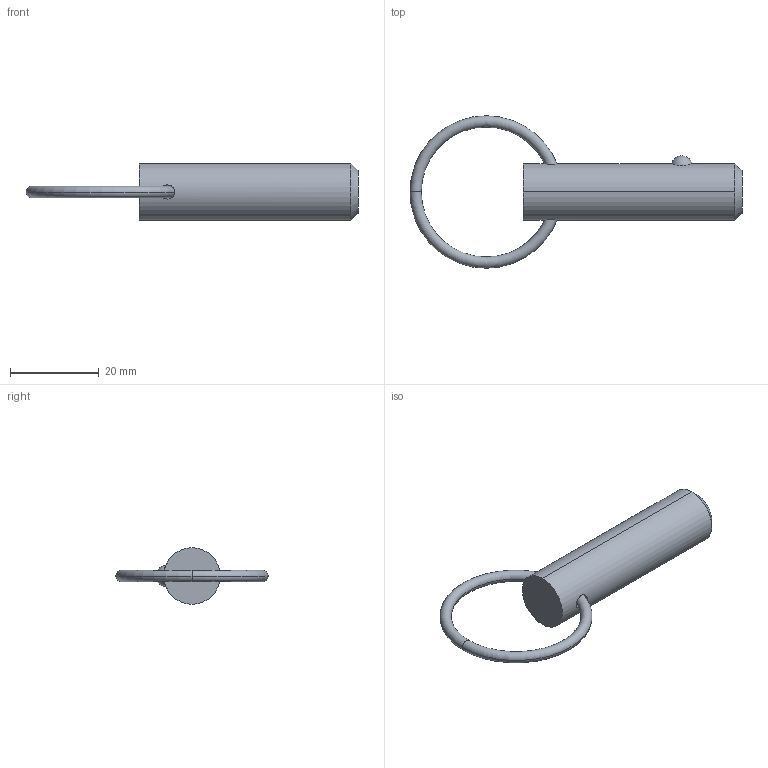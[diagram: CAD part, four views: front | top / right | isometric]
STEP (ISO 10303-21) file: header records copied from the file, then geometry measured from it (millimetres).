
FILE_DESCRIPTION (( 'STEP AP203' ), '1' );
FILE_NAME ('33012.W5010.step', '2024-11-01T14:12:41', ( '' ), ( '' ), 'SwSTEP 2.0', 'SolidWorks 2019', '' );
FILE_SCHEMA (( 'CONFIG_CONTROL_DESIGN' ));
Length unit declared in the file: millimetre
Products named in the file (3): Part1_33012.W5010; Part2_33012.W5010; 33012.W5010
Assembly tree (2 placements, depth 2):
  33012.W5010
    Part1_33012.W5010
    Part2_33012.W5010
Bounding box: 74.69 x 34.29 x 12.7 mm (x, y, z)
Volume: 6609.3 mm3; surface area: 3095.2 mm2
Topology: 2 solids, 2 shells, 16 faces, 31 edges, 18 vertices
Faces by surface type: torus 8, sphere 2, cone 2, cylinder 2, plane 2
Entity records: 885 total; most frequent: CARTESIAN_POINT 242, DIRECTION 88, ORIENTED_EDGE 62, AXIS2_PLACEMENT_3D 42, EDGE_CURVE 31, PERSON_AND_ORGANIZATION 26, CIRCLE 21, CALENDAR_DATE 19
